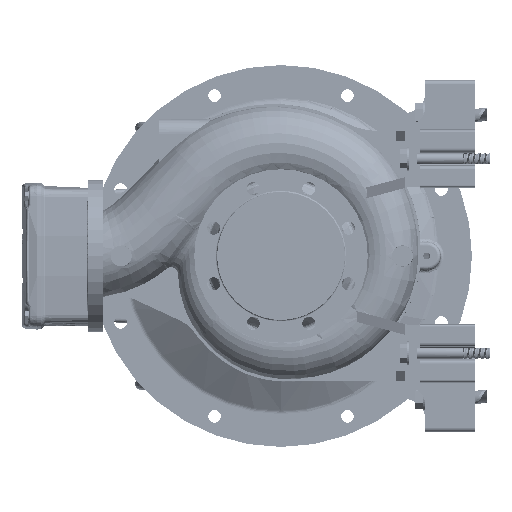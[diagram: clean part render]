
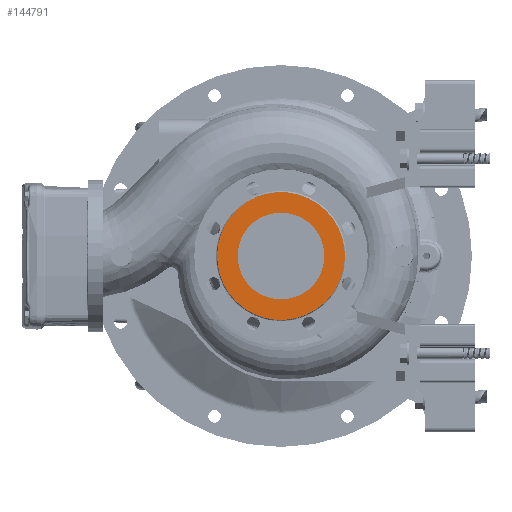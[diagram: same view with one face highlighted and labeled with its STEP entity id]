
A CAD part, left-side view. The second image highlights one B-rep face of the part: STEP entity #144791.
In plain terms, the highlighted planar face has unit normal (-1, 0, 0).
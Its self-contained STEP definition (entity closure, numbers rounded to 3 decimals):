
#2573 = CARTESIAN_POINT ( 'NONE',  ( -125., 66.273, 64.149 ) ) ;
#6120 = CARTESIAN_POINT ( 'NONE',  ( -125., 92., 0. ) ) ;
#8914 = CARTESIAN_POINT ( 'NONE',  ( -125., 0.001, 92.593 ) ) ;
#9401 = CARTESIAN_POINT ( 'NONE',  ( -125., 85.133, -35.264 ) ) ;
#10309 = CARTESIAN_POINT ( 'NONE',  ( -125., 92., 0. ) ) ;
#14729 = DIRECTION ( 'NONE',  ( -1., 0., 0. ) ) ;
#16395 = ORIENTED_EDGE ( 'NONE', *, *, #106312, .F. ) ;
#16398 = CARTESIAN_POINT ( 'NONE',  ( -125., 88.18, 26.749 ) ) ;
#18188 = CARTESIAN_POINT ( 'NONE',  ( -125., 92., 3.009 ) ) ;
#24880 = FACE_OUTER_BOUND ( 'NONE', #179574, .T. ) ;
#25788 = FACE_BOUND ( 'NONE', #182591, .T. ) ;
#29152 = ORIENTED_EDGE ( 'NONE', *, *, #160118, .F. ) ;
#31148 = CARTESIAN_POINT ( 'NONE',  ( -125., 92., 0. ) ) ;
#32051 = CARTESIAN_POINT ( 'NONE',  ( -125., 85.133, 35.264 ) ) ;
#37068 = CARTESIAN_POINT ( 'NONE',  ( -125., 43.438, -81.267 ) ) ;
#38906 = CARTESIAN_POINT ( 'NONE',  ( -125., 90.377, -17.977 ) ) ;
#40704 = CARTESIAN_POINT ( 'NONE',  ( -125., -85.545, -35.434 ) ) ;
#43336 = DIRECTION ( 'NONE',  ( 0., 0., -1. ) ) ;
#51370 = CARTESIAN_POINT ( 'NONE',  ( -125., -76.988, 51.442 ) ) ;
#52757 = CARTESIAN_POINT ( 'NONE',  ( -125., 92., -3.009 ) ) ;
#58594 = EDGE_CURVE ( 'NONE', #155715, #100252, #85751, .T. ) ;
#61342 = DIRECTION ( 'NONE',  ( -1., 0., 0. ) ) ;
#65196 = CARTESIAN_POINT ( 'NONE',  ( -125., -35.434, 85.545 ) ) ;
#65674 = CARTESIAN_POINT ( 'NONE',  ( -125., 51.195, -76.618 ) ) ;
#67509 = CARTESIAN_POINT ( 'NONE',  ( -125., -51.442, -76.988 ) ) ;
#75405 = CARTESIAN_POINT ( 'NONE',  ( -125., 18.062, 90.815 ) ) ;
#78322 = AXIS2_PLACEMENT_3D ( 'NONE', #89944, #61342, #89036 ) ;
#79544 = CARTESIAN_POINT ( 'NONE',  ( -125., 80.624, -44.798 ) ) ;
#81197 = DIRECTION ( 'NONE',  ( 0., 0., -1. ) ) ;
#81357 = CARTESIAN_POINT ( 'NONE',  ( -125., -92., 0. ) ) ;
#85751 = CIRCLE ( 'NONE', #177214, 62.5 ) ;
#88349 = CARTESIAN_POINT ( 'NONE',  ( -125., 80.624, 44.798 ) ) ;
#89036 = DIRECTION ( 'NONE',  ( 0., 0., -1. ) ) ;
#89944 = CARTESIAN_POINT ( 'NONE',  ( -125., 0., 0. ) ) ;
#90283 = AXIS2_PLACEMENT_3D ( 'NONE', #182697, #113413, #81197 ) ;
#94278 = CARTESIAN_POINT ( 'NONE',  ( -125., 66.273, -64.149 ) ) ;
#94885 = CARTESIAN_POINT ( 'NONE',  ( -125., -92., 0. ) ) ;
#95197 = CARTESIAN_POINT ( 'NONE',  ( -125., -76.988, -51.442 ) ) ;
#100161 = B_SPLINE_CURVE_WITH_KNOTS ( 'NONE', 3,
 ( #81357, #124737, #167194, #40704, #95197, #109050, #67509, #165390, #118575, #163552, #150642, #108131, #37068, #65674, #164467, #94278, #137676, #79544, #9401, #123824, #38906, #121997, #52757, #10309 ),
 .UNSPECIFIED., .F., .F.,
 ( 4, 1, 1, 1, 1, 1, 1, 1, 1, 1, 1, 1, 1, 1, 1, 1, 1, 1, 1, 1, 1, 4 ),
 ( 0., 0.018, 0.036, 0.054, 0.072, 0.091, 0.109, 0.127, 0.145, 0.163, 0.181, 0.19, 0.199, 0.208, 0.217, 0.231, 0.244, 0.254, 0.263, 0.272, 0.281, 0.29 ),
 .UNSPECIFIED. ) ;
#100252 = VERTEX_POINT ( 'NONE', #113351 ) ;
#100375 = CARTESIAN_POINT ( 'NONE',  ( -125., 90.377, 17.977 ) ) ;
#101295 = CARTESIAN_POINT ( 'NONE',  ( -125., 74.163, 55.003 ) ) ;
#102352 = CARTESIAN_POINT ( 'NONE',  ( -125., 0., 0. ) ) ;
#104900 = CARTESIAN_POINT ( 'NONE',  ( -125., -65.473, 65.473 ) ) ;
#106312 = EDGE_CURVE ( 'NONE', #181114, #169682, #145162, .T. ) ;
#107662 = CARTESIAN_POINT ( 'NONE',  ( -125., -92., 6.021 ) ) ;
#108131 = CARTESIAN_POINT ( 'NONE',  ( -125., 32.548, -86.419 ) ) ;
#109050 = CARTESIAN_POINT ( 'NONE',  ( -125., -65.473, -65.473 ) ) ;
#113351 = CARTESIAN_POINT ( 'NONE',  ( -125., 0., -62.5 ) ) ;
#113413 = DIRECTION ( 'NONE',  ( 1., 0., 0. ) ) ;
#116955 = CARTESIAN_POINT ( 'NONE',  ( -125., 43.438, 81.267 ) ) ;
#118575 = CARTESIAN_POINT ( 'NONE',  ( -125., -18.064, -90.814 ) ) ;
#121997 = CARTESIAN_POINT ( 'NONE',  ( -125., 91.704, -9.033 ) ) ;
#123824 = CARTESIAN_POINT ( 'NONE',  ( -125., 88.18, -26.749 ) ) ;
#124737 = CARTESIAN_POINT ( 'NONE',  ( -125., -92., -6.021 ) ) ;
#129587 = EDGE_CURVE ( 'NONE', #100252, #155715, #134342, .T. ) ;
#134342 = CIRCLE ( 'NONE', #78322, 62.5 ) ;
#135372 = CARTESIAN_POINT ( 'NONE',  ( -125., -90.814, 18.064 ) ) ;
#137042 = ORIENTED_EDGE ( 'NONE', *, *, #129587, .F. ) ;
#137676 = CARTESIAN_POINT ( 'NONE',  ( -125., 74.163, -55.003 ) ) ;
#144685 = CARTESIAN_POINT ( 'NONE',  ( -125., 51.195, 76.618 ) ) ;
#144791 = ADVANCED_FACE ( 'NONE', ( #25788, #24880 ), #167033, .F. ) ;
#145162 = B_SPLINE_CURVE_WITH_KNOTS ( 'NONE', 3,
 ( #31148, #18188, #158546, #100375, #16398, #32051, #88349, #101295, #2573, #157647, #144685, #116955, #173286, #75405, #8914, #161252, #65196, #146506, #104900, #51370, #147416, #135372, #107662, #149240 ),
 .UNSPECIFIED., .F., .F.,
 ( 4, 1, 1, 1, 1, 1, 1, 1, 1, 1, 1, 1, 1, 1, 1, 1, 1, 1, 1, 1, 1, 4 ),
 ( 0., 0.009, 0.018, 0.027, 0.036, 0.045, 0.059, 0.073, 0.082, 0.091, 0.1, 0.109, 0.127, 0.145, 0.163, 0.181, 0.199, 0.218, 0.236, 0.254, 0.272, 0.29 ),
 .UNSPECIFIED. ) ;
#146506 = CARTESIAN_POINT ( 'NONE',  ( -125., -51.442, 76.988 ) ) ;
#147416 = CARTESIAN_POINT ( 'NONE',  ( -125., -85.545, 35.434 ) ) ;
#149240 = CARTESIAN_POINT ( 'NONE',  ( -125., -92., 0. ) ) ;
#150642 = CARTESIAN_POINT ( 'NONE',  ( -125., 18.062, -90.815 ) ) ;
#155715 = VERTEX_POINT ( 'NONE', #178246 ) ;
#157647 = CARTESIAN_POINT ( 'NONE',  ( -125., 58.458, 71.231 ) ) ;
#158546 = CARTESIAN_POINT ( 'NONE',  ( -125., 91.704, 9.033 ) ) ;
#160118 = EDGE_CURVE ( 'NONE', #169682, #181114, #100161, .T. ) ;
#161252 = CARTESIAN_POINT ( 'NONE',  ( -125., -18.064, 90.814 ) ) ;
#163552 = CARTESIAN_POINT ( 'NONE',  ( -125., 0.001, -92.593 ) ) ;
#164467 = CARTESIAN_POINT ( 'NONE',  ( -125., 58.458, -71.231 ) ) ;
#165390 = CARTESIAN_POINT ( 'NONE',  ( -125., -35.434, -85.545 ) ) ;
#167033 = PLANE ( 'NONE',  #90283 ) ;
#167194 = CARTESIAN_POINT ( 'NONE',  ( -125., -90.814, -18.064 ) ) ;
#168025 = ORIENTED_EDGE ( 'NONE', *, *, #58594, .F. ) ;
#169682 = VERTEX_POINT ( 'NONE', #94885 ) ;
#173286 = CARTESIAN_POINT ( 'NONE',  ( -125., 32.548, 86.419 ) ) ;
#177214 = AXIS2_PLACEMENT_3D ( 'NONE', #102352, #14729, #43336 ) ;
#178246 = CARTESIAN_POINT ( 'NONE',  ( -125., 0., 62.5 ) ) ;
#179574 = EDGE_LOOP ( 'NONE', ( #29152, #16395 ) ) ;
#181114 = VERTEX_POINT ( 'NONE', #6120 ) ;
#182591 = EDGE_LOOP ( 'NONE', ( #137042, #168025 ) ) ;
#182697 = CARTESIAN_POINT ( 'NONE',  ( -125., -93.104, 93.104 ) ) ;
